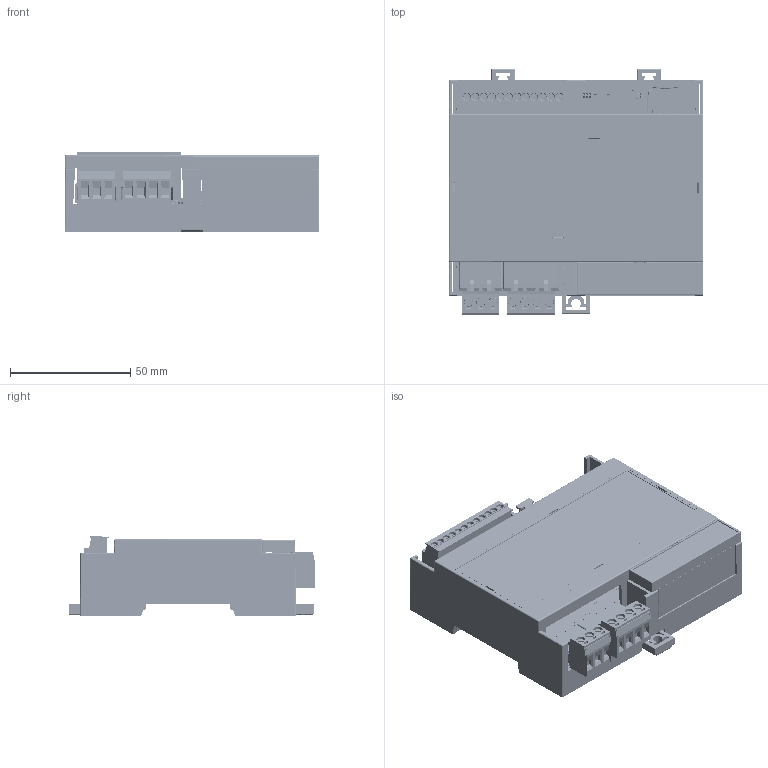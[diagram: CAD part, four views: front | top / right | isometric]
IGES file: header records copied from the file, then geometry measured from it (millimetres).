
Global section: file name: Inxpect CAD file C203B_7_00236_en_iges; native system: unknown; preprocessor: unknown; author: unknown; organization: unknown; date: 20230622.130501; units: millimetre
Bounding box: 106.2 x 102.53 x 33.25 mm (x, y, z)
Volume: 78998.4 mm3; surface area: 115304.5 mm2
Topology: 305 solids, 305 shells, 17898 faces, 49194 edges, 32274 vertices
Faces by surface type: bspline 17866, revolution 32
